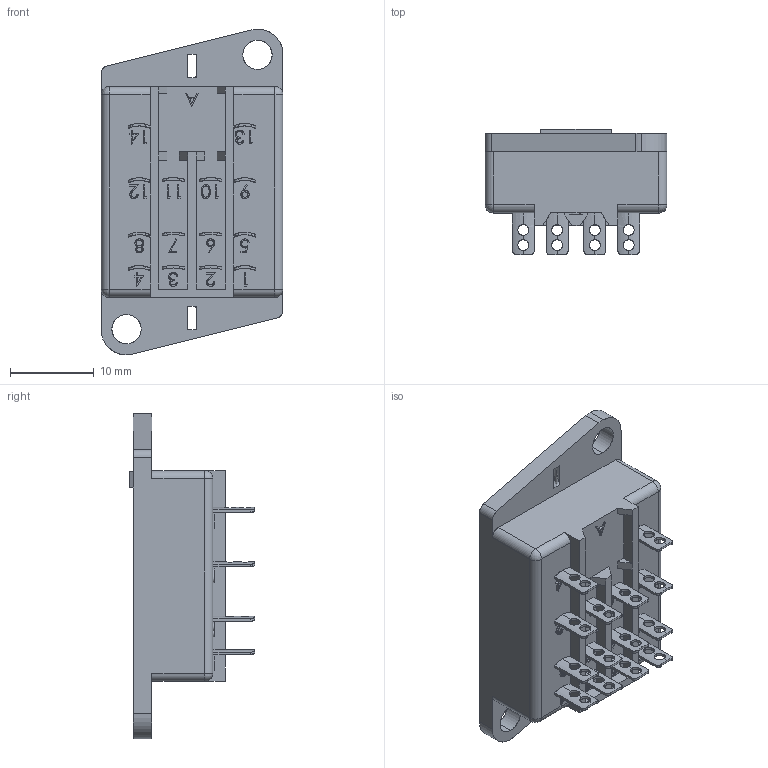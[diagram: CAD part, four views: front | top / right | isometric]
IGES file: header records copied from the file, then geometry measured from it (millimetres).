
Start section: SolidWorks IGES file using analytic representation for surfaces
Global section: file name: D:\X - Arquivos\PROEX\Empresas\P11 - METALTEX\01 - Produtos\IGES\7ª remessa\2ª etapa\MSO4TF.IGS; native system: SolidWorks 2012; preprocessor: SolidWorks 2012; author: Usuario; date: 190912.135813; units: millimetre
Bounding box: 21.75 x 15 x 38.93 mm (x, y, z)
Surface area: 3649.9 mm2 (no closed solid volume)
Topology: 0 solids, 0 shells, 677 faces, 7374 edges, 7370 vertices
Faces by surface type: bspline 512, revolution 165
